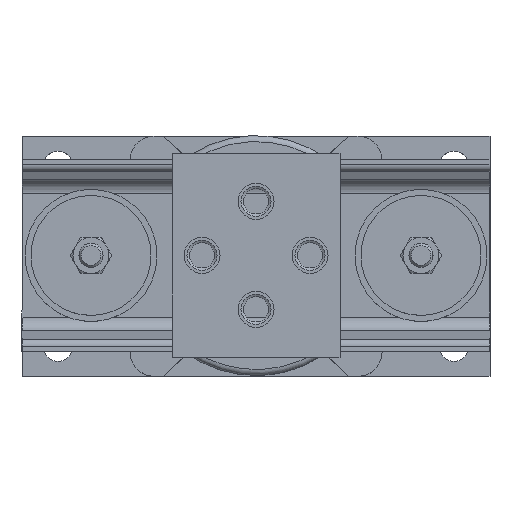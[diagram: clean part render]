
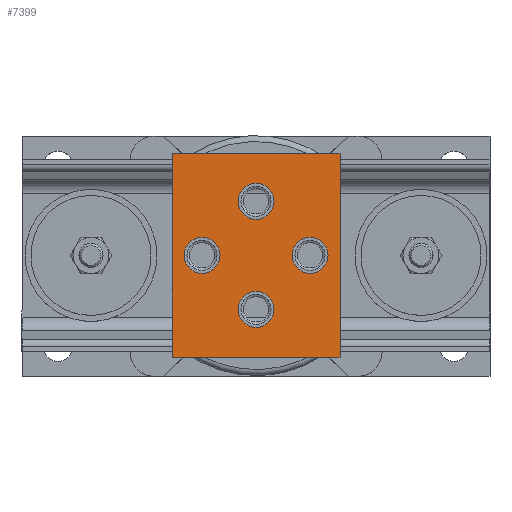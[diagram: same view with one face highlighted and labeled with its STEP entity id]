
A CAD part, top view. The second image highlights one B-rep face of the part: STEP entity #7399.
In plain terms, the highlighted planar face has unit normal (0, 0, 1).
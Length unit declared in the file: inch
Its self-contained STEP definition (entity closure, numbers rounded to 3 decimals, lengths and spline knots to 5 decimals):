
#443=LINE('',#11218,#909);
#447=LINE('',#11225,#913);
#450=LINE('',#11231,#916);
#452=LINE('',#11234,#918);
#909=VECTOR('',#9206,4.25);
#913=VECTOR('',#9212,3.5);
#916=VECTOR('',#9217,4.25);
#918=VECTOR('',#9221,3.5);
#1246=PLANE('',#7980);
#1637=FACE_BOUND('',#2427,.T.);
#1638=FACE_BOUND('',#2428,.T.);
#1639=FACE_BOUND('',#2429,.T.);
#1640=FACE_BOUND('',#2430,.T.);
#1908=FACE_OUTER_BOUND('',#2426,.T.);
#2426=EDGE_LOOP('',(#5476,#5477,#5478,#5479));
#2427=EDGE_LOOP('',(#5480));
#2428=EDGE_LOOP('',(#5481));
#2429=EDGE_LOOP('',(#5482));
#2430=EDGE_LOOP('',(#5483));
#2869=CIRCLE('',#7964,0.375);
#2871=CIRCLE('',#7967,0.375);
#2873=CIRCLE('',#7970,0.375);
#2875=CIRCLE('',#7973,0.375);
#3304=VERTEX_POINT('',#11192);
#3306=VERTEX_POINT('',#11197);
#3308=VERTEX_POINT('',#11202);
#3310=VERTEX_POINT('',#11207);
#3314=VERTEX_POINT('',#11215);
#3315=VERTEX_POINT('',#11217);
#3317=VERTEX_POINT('',#11223);
#3319=VERTEX_POINT('',#11229);
#4087=EDGE_CURVE('',#3304,#3304,#2869,.T.);
#4089=EDGE_CURVE('',#3306,#3306,#2871,.T.);
#4091=EDGE_CURVE('',#3308,#3308,#2873,.T.);
#4093=EDGE_CURVE('',#3310,#3310,#2875,.T.);
#4097=EDGE_CURVE('',#3315,#3314,#443,.T.);
#4101=EDGE_CURVE('',#3314,#3317,#447,.T.);
#4104=EDGE_CURVE('',#3317,#3319,#450,.T.);
#4106=EDGE_CURVE('',#3319,#3315,#452,.T.);
#5476=ORIENTED_EDGE('',*,*,#4106,.T.);
#5477=ORIENTED_EDGE('',*,*,#4097,.T.);
#5478=ORIENTED_EDGE('',*,*,#4101,.T.);
#5479=ORIENTED_EDGE('',*,*,#4104,.T.);
#5480=ORIENTED_EDGE('',*,*,#4087,.T.);
#5481=ORIENTED_EDGE('',*,*,#4089,.T.);
#5482=ORIENTED_EDGE('',*,*,#4091,.T.);
#5483=ORIENTED_EDGE('',*,*,#4093,.T.);
#7399=ADVANCED_FACE('',(#1908,#1637,#1638,#1639,#1640),#1246,.F.);
#7964=AXIS2_PLACEMENT_3D('',#11193,#9180,#9181);
#7967=AXIS2_PLACEMENT_3D('',#11198,#9186,#9187);
#7970=AXIS2_PLACEMENT_3D('',#11203,#9192,#9193);
#7973=AXIS2_PLACEMENT_3D('',#11208,#9198,#9199);
#7980=AXIS2_PLACEMENT_3D('',#11236,#9224,#9225);
#9180=DIRECTION('center_axis',(0.,0.,
-1.));
#9181=DIRECTION('ref_axis',(1.,0.,0.));
#9186=DIRECTION('center_axis',(0.,0.,
-1.));
#9187=DIRECTION('ref_axis',(1.,0.,0.));
#9192=DIRECTION('center_axis',(0.,0.,
-1.));
#9193=DIRECTION('ref_axis',(1.,0.,0.));
#9198=DIRECTION('center_axis',(0.,0.,
-1.));
#9199=DIRECTION('ref_axis',(1.,0.,0.));
#9206=DIRECTION('',(0.,-1.,0.));
#9212=DIRECTION('',(1.,0.,0.));
#9217=DIRECTION('',(0.,1.,0.));
#9221=DIRECTION('',(-1.,0.,0.));
#9224=DIRECTION('center_axis',(0.,0.,
-1.));
#9225=DIRECTION('ref_axis',(1.,0.,0.));
#11192=CARTESIAN_POINT('',(-0.375,-1.125,11.5));
#11193=CARTESIAN_POINT('Origin',(0.,-1.125,11.5));
#11197=CARTESIAN_POINT('',(-0.375,1.125,11.5));
#11198=CARTESIAN_POINT('Origin',(0.,1.125,11.5));
#11202=CARTESIAN_POINT('',(0.75,0.,11.5));
#11203=CARTESIAN_POINT('Origin',(1.125,0.,11.5));
#11207=CARTESIAN_POINT('',(-1.5,0.,11.5));
#11208=CARTESIAN_POINT('Origin',(-1.125,0.,11.5));
#11215=CARTESIAN_POINT('',(-1.75,-2.125,11.5));
#11217=CARTESIAN_POINT('',(-1.75,2.125,11.5));
#11218=CARTESIAN_POINT('',(-1.75,2.125,11.5));
#11223=CARTESIAN_POINT('',(1.75,-2.125,11.5));
#11225=CARTESIAN_POINT('',(-1.75,-2.125,11.5));
#11229=CARTESIAN_POINT('',(1.75,2.125,11.5));
#11231=CARTESIAN_POINT('',(1.75,-2.125,11.5));
#11234=CARTESIAN_POINT('',(1.75,2.125,11.5));
#11236=CARTESIAN_POINT('Origin',(0.,0.,
11.5));
